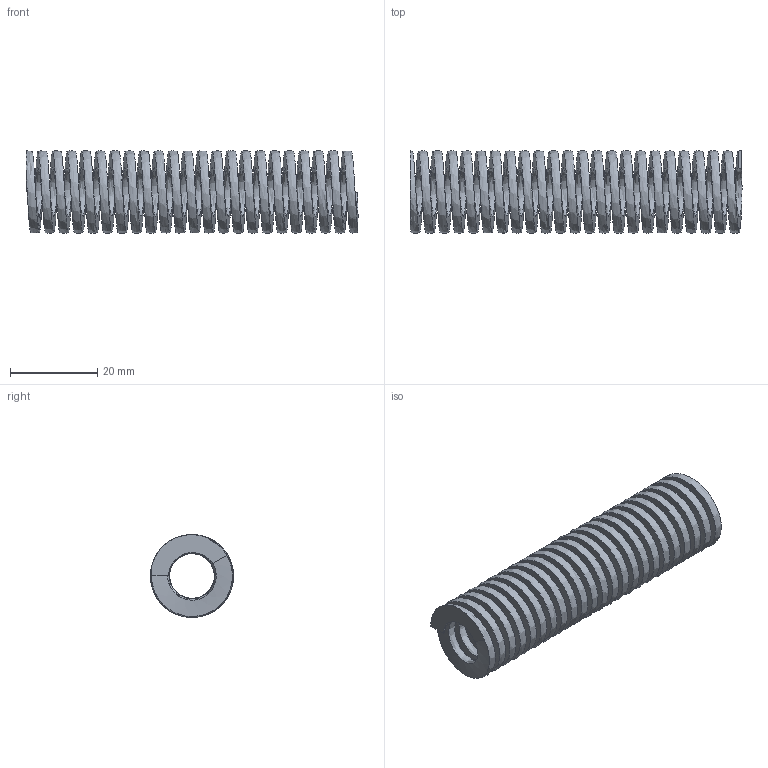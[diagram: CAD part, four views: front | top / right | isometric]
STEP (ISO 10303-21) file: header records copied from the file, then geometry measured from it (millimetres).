
FILE_DESCRIPTION (( 'STEP AP203' ), '1' );
FILE_NAME ('HS75L3.step', '2020-08-24T12:44:16', ( 'Microsoft Corporation' ), ( 'MS' ), 'SwSTEP 2.0', 'SolidWorks 2018', '' );
FILE_SCHEMA (( 'CONFIG_CONTROL_DESIGN' ));
Length unit declared in the file: inch
Products named in the file (1): HS75L3
Bounding box: 76.2 x 19.05 x 19.05 mm (x, y, z)
Volume: 7669 mm3; surface area: 12251.5 mm2
Topology: 1 solids, 1 shells, 8 faces, 18 edges, 12 vertices
Faces by surface type: bspline 4, plane 4
Entity records: 6992 total; most frequent: CARTESIAN_POINT 6760, ORIENTED_EDGE 36, DIRECTION 22, EDGE_CURVE 18, VERTEX_POINT 12, B_SPLINE_CURVE_WITH_KNOTS 10, AXIS2_PLACEMENT_3D 9, EDGE_LOOP 8
